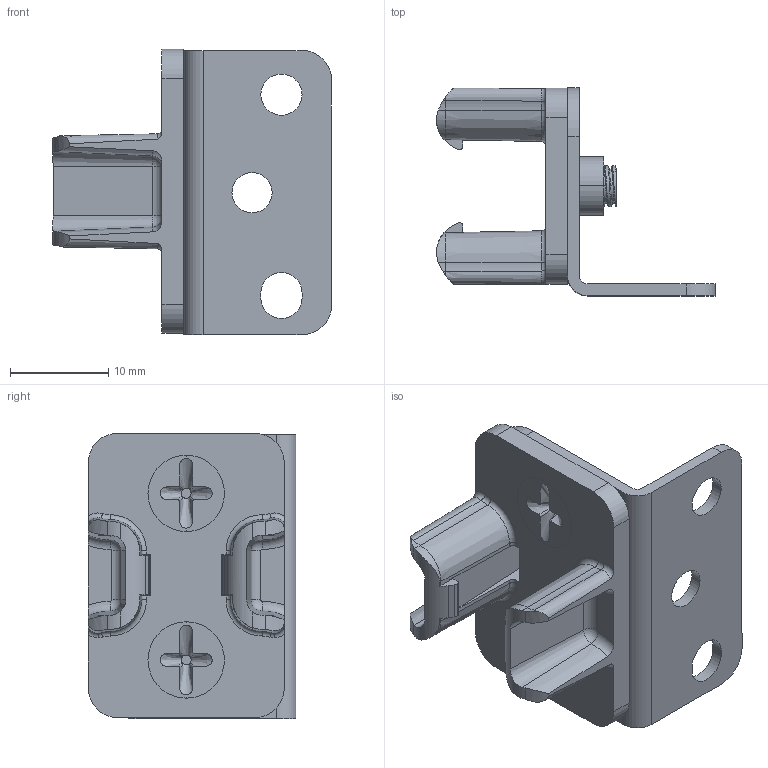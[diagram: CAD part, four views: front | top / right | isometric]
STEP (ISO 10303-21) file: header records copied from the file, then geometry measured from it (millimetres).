
FILE_DESCRIPTION (( 'STEP AP203' ), '1' );
FILE_NAME ('FX-LFBM-G1-BSL-29.2H28.5-KIT20.STEP', '2022-10-14T09:09:32', ( '' ), ( '' ), 'SwSTEP 2.0', 'SolidWorks 2020', '' );
FILE_SCHEMA (( 'CONFIG_CONTROL_DESIGN' ));
Length unit declared in the file: millimetre
Products named in the file (1): FX-LFBM-G1-BSL-29.2H28.5-KIT20
Bounding box: 28.46 x 21.2 x 29.13 mm (x, y, z)
Volume: 3102.9 mm3; surface area: 4784.3 mm2
Topology: 4 solids, 4 shells, 238 faces, 654 edges, 418 vertices
Faces by surface type: cylinder 100, plane 58, cone 36, torus 22, bspline 22
Entity records: 18437 total; most frequent: CARTESIAN_POINT 12577, ORIENTED_EDGE 1292, DIRECTION 1100, EDGE_CURVE 646, VERTEX_POINT 418, AXIS2_PLACEMENT_3D 413, LINE 274, VECTOR 274
